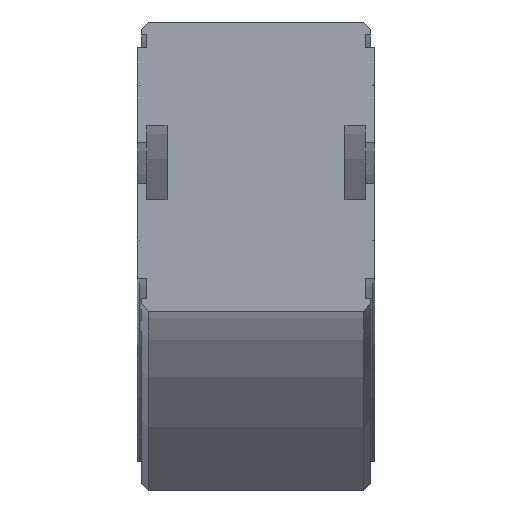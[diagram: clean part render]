
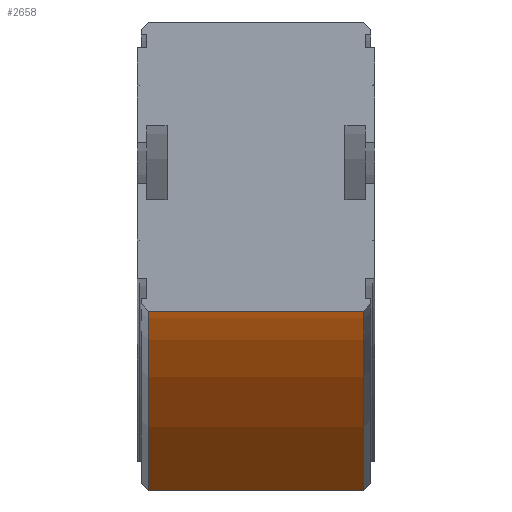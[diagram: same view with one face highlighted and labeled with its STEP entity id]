
A CAD part, left-side view. The second image highlights one B-rep face of the part: STEP entity #2658.
In plain terms, the highlighted cylindrical face has radius 360 mm (diameter 720 mm), a partial arc.
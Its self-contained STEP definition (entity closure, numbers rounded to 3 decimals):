
#2600=CARTESIAN_POINT('',(180.,29.,-126.231));
#2601=VERTEX_POINT('',#2600);
#2608=CARTESIAN_POINT('',(0.0,29.,-78.));
#2609=VERTEX_POINT('',#2608);
#2610=CARTESIAN_POINT('',(0.,29.,-438.0));
#2611=DIRECTION('',(0.0,1.0,0.0));
#2612=DIRECTION('',(0.0,0.0,1.0));
#2613=AXIS2_PLACEMENT_3D('',#2610,#2611,#2612);
#2614=CIRCLE('',#2613,360.);
#2615=EDGE_CURVE('',#2609,#2601,#2614,.T.);
#2627=CARTESIAN_POINT('',(0.,0.,-438.0));
#2628=DIRECTION('',(0.0,1.0,0.0));
#2629=DIRECTION('',(0.0,0.0,1.0));
#2630=AXIS2_PLACEMENT_3D('',#2627,#2628,#2629);
#2631=CYLINDRICAL_SURFACE('',#2630,360.);
#2632=CARTESIAN_POINT('',(180.,-29.,-126.231));
#2633=VERTEX_POINT('',#2632);
#2634=CARTESIAN_POINT('',(180.,29.,-126.231));
#2635=DIRECTION('',(0.0,-1.0,0.0));
#2636=VECTOR('',#2635,58.);
#2637=LINE('',#2634,#2636);
#2638=EDGE_CURVE('',#2601,#2633,#2637,.T.);
#2639=ORIENTED_EDGE('',*,*,#2638,.T.);
#2640=CARTESIAN_POINT('',(0.0,-29.,-78.));
#2641=VERTEX_POINT('',#2640);
#2642=CARTESIAN_POINT('',(0.,-29.,-438.0));
#2643=DIRECTION('',(0.0,1.0,0.0));
#2644=DIRECTION('',(0.0,0.0,1.0));
#2645=AXIS2_PLACEMENT_3D('',#2642,#2643,#2644);
#2646=CIRCLE('',#2645,360.);
#2647=EDGE_CURVE('',#2641,#2633,#2646,.T.);
#2648=ORIENTED_EDGE('',*,*,#2647,.F.);
#2649=CARTESIAN_POINT('',(0.0,-29.,-78.));
#2650=DIRECTION('',(0.0,1.0,0.0));
#2651=VECTOR('',#2650,58.);
#2652=LINE('',#2649,#2651);
#2653=EDGE_CURVE('',#2641,#2609,#2652,.T.);
#2654=ORIENTED_EDGE('',*,*,#2653,.T.);
#2655=ORIENTED_EDGE('',*,*,#2615,.T.);
#2656=EDGE_LOOP('',(#2639,#2648,#2654,#2655));
#2657=FACE_OUTER_BOUND('',#2656,.T.);
#2658=ADVANCED_FACE('',(#2657),#2631,.F.);
